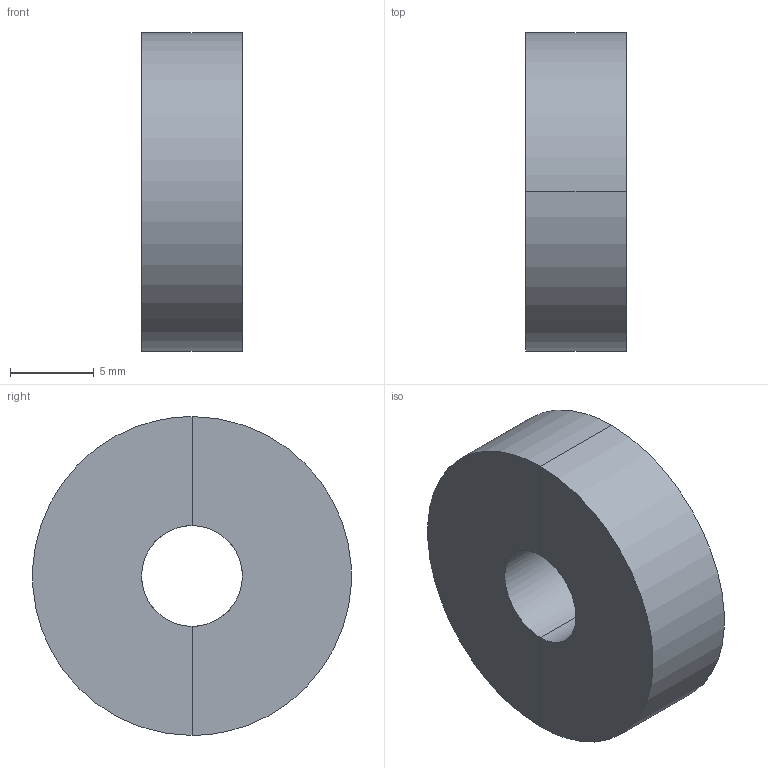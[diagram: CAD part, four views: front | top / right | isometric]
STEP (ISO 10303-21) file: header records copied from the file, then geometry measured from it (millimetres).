
FILE_DESCRIPTION(/* description */ (''),/* implementation_level */ '2;1');
FILE_NAME(/* name */ '6.y-drive#6.8#B626ZZ',/* time_stamp */ '2014-12-01T20:15:52+01:00',/* author */ (''),/* organization */ (''),/* preprocessor_version */ 'ST-DEVELOPER v14',/* originating_system */ '',/* authorisation */ '');
FILE_SCHEMA (('AUTOMOTIVE_DESIGN'));
Length unit declared in the file: millimetre
Products named in the file (1): Document
Bounding box: 6 x 18.97 x 19 mm (x, y, z)
Volume: 1536.3 mm3; surface area: 982.1 mm2
Topology: 1 solids, 1 shells, 8 faces, 16 edges, 8 vertices
Faces by surface type: bspline 8
Entity records: 504 total; most frequent: CARTESIAN_POINT 273, B_SPLINE_CURVE_WITH_KNOTS 40, ORIENTED_EDGE 32, PCURVE 32, DEFINITIONAL_REPRESENTATION 32, SURFACE_CURVE 16, EDGE_CURVE 16, ADVANCED_FACE 8
